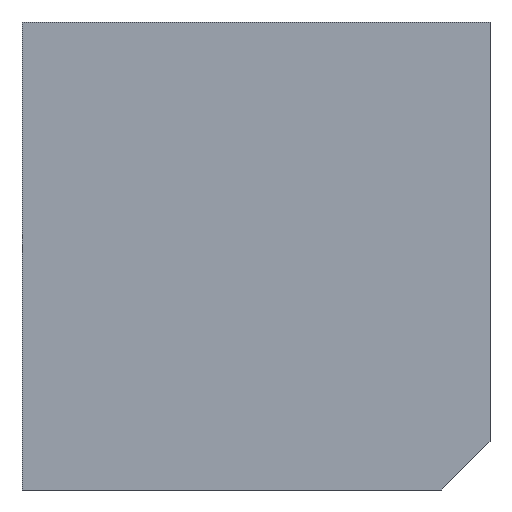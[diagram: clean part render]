
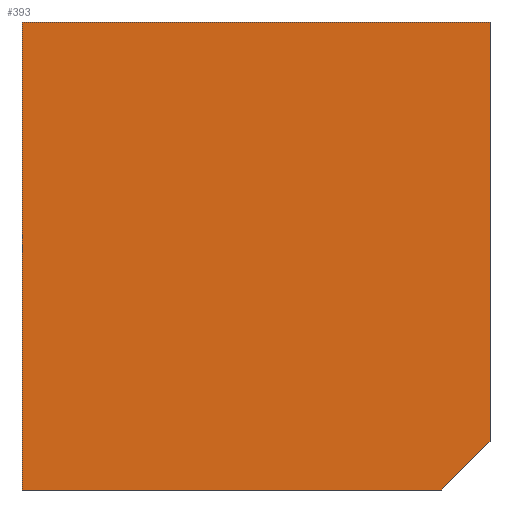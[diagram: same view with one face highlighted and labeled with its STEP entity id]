
A CAD part, left-side view. The second image highlights one B-rep face of the part: STEP entity #393.
In plain terms, the highlighted planar face has unit normal (-1, 0, 0).
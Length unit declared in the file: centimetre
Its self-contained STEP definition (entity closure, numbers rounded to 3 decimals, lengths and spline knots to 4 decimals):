
#23 = DIRECTION ( 'NONE',  ( 0., -0.707, 0.707 ) ) ;
#31 = CARTESIAN_POINT ( 'NONE',  ( 0., 103.2793, 0. ) ) ;
#33 = EDGE_CURVE ( 'NONE', #121, #273, #101, .T. ) ;
#101 = LINE ( 'NONE', #182, #811 ) ;
#121 = VERTEX_POINT ( 'NONE', #877 ) ;
#122 = EDGE_CURVE ( 'NONE', #947, #121, #567, .T. ) ;
#141 = VECTOR ( 'NONE', #174, 100. ) ;
#174 = DIRECTION ( 'NONE',  ( 0., -1., 0. ) ) ;
#182 = CARTESIAN_POINT ( 'NONE',  ( 0., 1000., 0. ) ) ;
#191 = PLANE ( 'NONE',  #199 ) ;
#199 = AXIS2_PLACEMENT_3D ( 'NONE', #346, #559, #473 ) ;
#221 = EDGE_LOOP ( 'NONE', ( #893, #643, #798, #571, #767 ) ) ;
#240 = LINE ( 'NONE', #529, #141 ) ;
#242 = DIRECTION ( 'NONE',  ( 0., -1., 0. ) ) ;
#273 = VERTEX_POINT ( 'NONE', #31 ) ;
#310 = VECTOR ( 'NONE', #23, 100. ) ;
#320 = DIRECTION ( 'NONE',  ( 0., 0., -1. ) ) ;
#346 = CARTESIAN_POINT ( 'NONE',  ( 0., 1000., 1000. ) ) ;
#358 = DIRECTION ( 'NONE',  ( 0., 0., -1. ) ) ;
#379 = LINE ( 'NONE', #738, #310 ) ;
#383 = CARTESIAN_POINT ( 'NONE',  ( 0., 1000., 1000. ) ) ;
#393 = ADVANCED_FACE ( 'NONE', ( #849 ), #191, .F. ) ;
#473 = DIRECTION ( 'NONE',  ( 0., 0., -1. ) ) ;
#511 = LINE ( 'NONE', #524, #750 ) ;
#523 = VERTEX_POINT ( 'NONE', #882 ) ;
#524 = CARTESIAN_POINT ( 'NONE',  ( 0., 0., 1000. ) ) ;
#529 = CARTESIAN_POINT ( 'NONE',  ( 0., 1000., 1000. ) ) ;
#538 = EDGE_CURVE ( 'NONE', #523, #843, #511, .T. ) ;
#546 = VECTOR ( 'NONE', #358, 100. ) ;
#559 = DIRECTION ( 'NONE',  ( 1., 0., 0. ) ) ;
#567 = LINE ( 'NONE', #727, #546 ) ;
#571 = ORIENTED_EDGE ( 'NONE', *, *, #951, .F. ) ;
#627 = EDGE_CURVE ( 'NONE', #273, #843, #379, .T. ) ;
#643 = ORIENTED_EDGE ( 'NONE', *, *, #627, .T. ) ;
#727 = CARTESIAN_POINT ( 'NONE',  ( 0., 1000., 1000. ) ) ;
#738 = CARTESIAN_POINT ( 'NONE',  ( 0., 0., 103.2793 ) ) ;
#750 = VECTOR ( 'NONE', #320, 100. ) ;
#767 = ORIENTED_EDGE ( 'NONE', *, *, #122, .T. ) ;
#798 = ORIENTED_EDGE ( 'NONE', *, *, #538, .F. ) ;
#810 = CARTESIAN_POINT ( 'NONE',  ( 0., 0., 103.2793 ) ) ;
#811 = VECTOR ( 'NONE', #242, 100. ) ;
#843 = VERTEX_POINT ( 'NONE', #810 ) ;
#849 = FACE_OUTER_BOUND ( 'NONE', #221, .T. ) ;
#877 = CARTESIAN_POINT ( 'NONE',  ( 0., 1000., 0. ) ) ;
#882 = CARTESIAN_POINT ( 'NONE',  ( 0., 0., 1000. ) ) ;
#893 = ORIENTED_EDGE ( 'NONE', *, *, #33, .T. ) ;
#947 = VERTEX_POINT ( 'NONE', #383 ) ;
#951 = EDGE_CURVE ( 'NONE', #947, #523, #240, .T. ) ;
